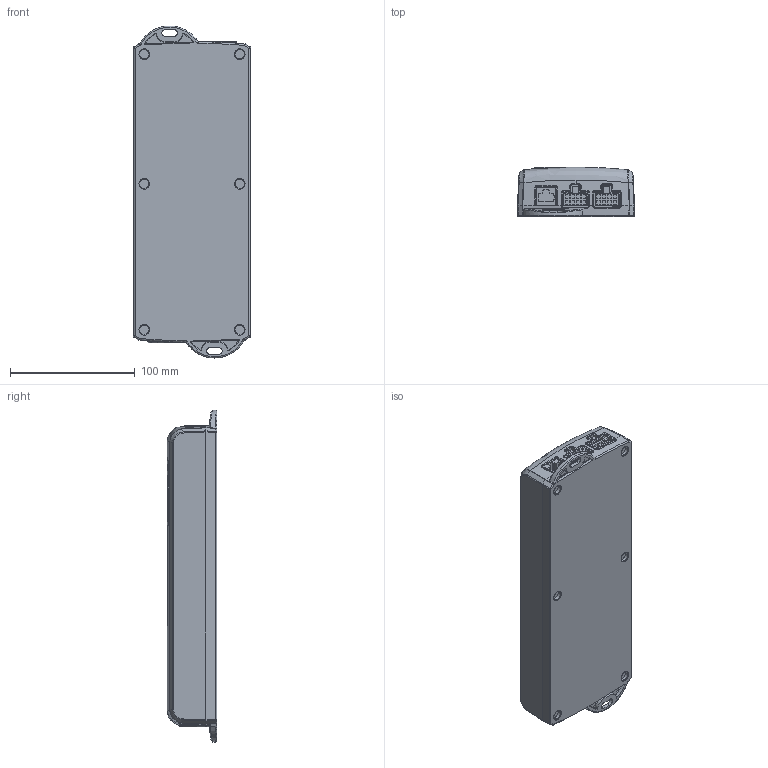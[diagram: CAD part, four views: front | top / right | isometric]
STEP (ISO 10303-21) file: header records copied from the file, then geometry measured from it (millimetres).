
FILE_DESCRIPTION (( 'STEP AP203' ), '1' );
FILE_NAME ('3D_TC15.STEP', '2014-02-18T03:15:32', ( '' ), ( '' ), 'SwSTEP 2.0', 'SolidWorks 2010', '' );
FILE_SCHEMA (( 'CONFIG_CONTROL_DESIGN' ));
Length unit declared in the file: millimetre
Products named in the file (1): 3D_TC15
Bounding box: 94 x 39.61 x 266.24 mm (x, y, z)
Volume: 851126.3 mm3; surface area: 72634 mm2
Topology: 1 solids, 3 shells, 768 faces, 1931 edges, 1201 vertices
Faces by surface type: plane 307, bspline 261, cylinder 118, torus 36, sphere 26, cone 20
Entity records: 38254 total; most frequent: CARTESIAN_POINT 21594, ORIENTED_EDGE 3822, DIRECTION 2748, EDGE_CURVE 1911, VERTEX_POINT 1201, AXIS2_PLACEMENT_3D 935, VECTOR 878, LINE 878
